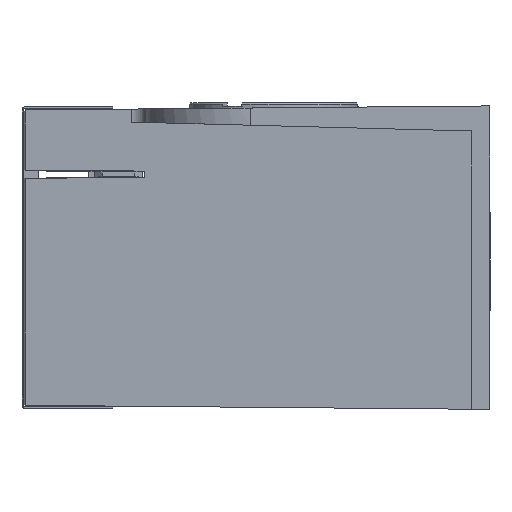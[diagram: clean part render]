
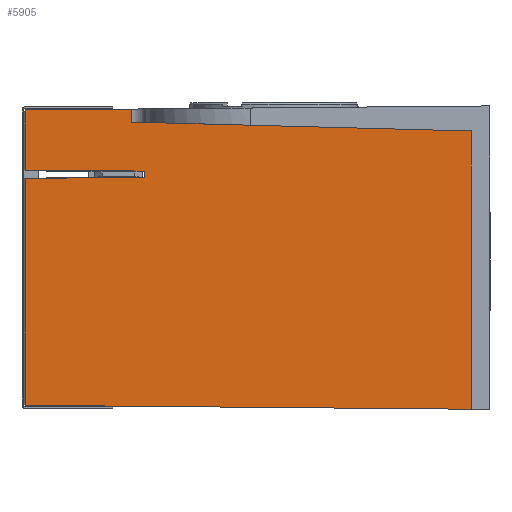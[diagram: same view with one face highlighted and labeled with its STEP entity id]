
A CAD part, left-side view. The second image highlights one B-rep face of the part: STEP entity #5905.
In plain terms, the highlighted planar face has unit normal (-1, 0.026, 0).
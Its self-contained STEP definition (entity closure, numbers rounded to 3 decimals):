
#363 = CARTESIAN_POINT ( 'NONE',  ( -31.755, 61.295, 11.548 ) ) ;
#439 = ORIENTED_EDGE ( 'NONE', *, *, #19989, .F. ) ;
#1025 = VECTOR ( 'NONE', #6432, 1000. ) ;
#1058 = VECTOR ( 'NONE', #20937, 1000. ) ;
#1114 = CARTESIAN_POINT ( 'NONE',  ( -31.755, 61.295, 0. ) ) ;
#1241 = ORIENTED_EDGE ( 'NONE', *, *, #17862, .F. ) ;
#1285 = VERTEX_POINT ( 'NONE', #21448 ) ;
#1434 = CARTESIAN_POINT ( 'NONE',  ( -32.166, 45.6, 11.411 ) ) ;
#1659 = ORIENTED_EDGE ( 'NONE', *, *, #6308, .T. ) ;
#2316 = LINE ( 'NONE', #9618, #19398 ) ;
#3471 = VERTEX_POINT ( 'NONE', #15994 ) ;
#3492 = ORIENTED_EDGE ( 'NONE', *, *, #9596, .T. ) ;
#3548 = CARTESIAN_POINT ( 'NONE',  ( -32.166, 45.6, 10.589 ) ) ;
#3962 = VECTOR ( 'NONE', #15161, 1000. ) ;
#4063 = ORIENTED_EDGE ( 'NONE', *, *, #11319, .F. ) ;
#4107 = LINE ( 'NONE', #11426, #3962 ) ;
#4192 = DIRECTION ( 'NONE',  ( -1., 0.026, 0. ) ) ;
#4734 = CARTESIAN_POINT ( 'NONE',  ( -32.166, 45.6, 0. ) ) ;
#4946 = VERTEX_POINT ( 'NONE', #3548 ) ;
#5018 = VECTOR ( 'NONE', #18780, 1000. ) ;
#5702 = ORIENTED_EDGE ( 'NONE', *, *, #20223, .T. ) ;
#5756 = VERTEX_POINT ( 'NONE', #12371 ) ;
#5905 = ADVANCED_FACE ( 'NONE', ( #14638 ), #18357, .T. ) ;
#6308 = EDGE_CURVE ( 'NONE', #9813, #21836, #2316, .T. ) ;
#6432 = DIRECTION ( 'NONE',  ( 0., 0., 1. ) ) ;
#7474 = VECTOR ( 'NONE', #16555, 1000. ) ;
#7811 = EDGE_CURVE ( 'NONE', #5756, #9813, #20807, .T. ) ;
#8351 = CARTESIAN_POINT ( 'NONE',  ( -32.126, 47.137, 17.869 ) ) ;
#8417 = EDGE_CURVE ( 'NONE', #16878, #19719, #20583, .T. ) ;
#8458 = CARTESIAN_POINT ( 'NONE',  ( -33.295, 2.5, -19.98 ) ) ;
#9591 = DIRECTION ( 'NONE',  ( 0., 0., -1. ) ) ;
#9596 = EDGE_CURVE ( 'NONE', #21696, #19719, #10236, .T. ) ;
#9618 = CARTESIAN_POINT ( 'NONE',  ( -32.122, 47.3, 0. ) ) ;
#9813 = VERTEX_POINT ( 'NONE', #15398 ) ;
#10028 = EDGE_CURVE ( 'NONE', #1285, #3471, #23164, .T. ) ;
#10236 = LINE ( 'NONE', #18589, #23350 ) ;
#10348 = DIRECTION ( 'NONE',  ( 0.026, 1., -0.009 ) ) ;
#11319 = EDGE_CURVE ( 'NONE', #21696, #21836, #11459, .T. ) ;
#11426 = CARTESIAN_POINT ( 'NONE',  ( -33.295, 2.5, 0. ) ) ;
#11459 = LINE ( 'NONE', #17132, #5018 ) ;
#11589 = CARTESIAN_POINT ( 'NONE',  ( -31.75, 61.5, 11.55 ) ) ;
#12371 = CARTESIAN_POINT ( 'NONE',  ( -33.295, 2.5, 16.7 ) ) ;
#12469 = CARTESIAN_POINT ( 'NONE',  ( -31.755, 61.295, 19.467 ) ) ;
#12619 = CARTESIAN_POINT ( 'NONE',  ( -31.748, 61.591, 10.449 ) ) ;
#12706 = LINE ( 'NONE', #16672, #7474 ) ;
#13496 = CARTESIAN_POINT ( 'NONE',  ( -32.122, 47.3, 19.589 ) ) ;
#13588 = DIRECTION ( 'NONE',  ( 0., 0., 1. ) ) ;
#13771 = ORIENTED_EDGE ( 'NONE', *, *, #8417, .F. ) ;
#13810 = VECTOR ( 'NONE', #15986, 1000. ) ;
#13941 = LINE ( 'NONE', #12619, #17524 ) ;
#14638 = FACE_OUTER_BOUND ( 'NONE', #17920, .T. ) ;
#14715 = DIRECTION ( 'NONE',  ( 0.026, 1., 0.009 ) ) ;
#15161 = DIRECTION ( 'NONE',  ( 0., 0., -1. ) ) ;
#15398 = CARTESIAN_POINT ( 'NONE',  ( -32.122, 47.3, 17.873 ) ) ;
#15986 = DIRECTION ( 'NONE',  ( 0., 0., -1. ) ) ;
#15994 = CARTESIAN_POINT ( 'NONE',  ( -31.755, 61.295, -19.467 ) ) ;
#16555 = DIRECTION ( 'NONE',  ( -0.026, -1., -0.009 ) ) ;
#16672 = CARTESIAN_POINT ( 'NONE',  ( -31.746, 61.67, -19.464 ) ) ;
#16878 = VERTEX_POINT ( 'NONE', #1434 ) ;
#17132 = CARTESIAN_POINT ( 'NONE',  ( -31.746, 61.67, 19.464 ) ) ;
#17524 = VECTOR ( 'NONE', #10348, 1000. ) ;
#17714 = ORIENTED_EDGE ( 'NONE', *, *, #21015, .T. ) ;
#17862 = EDGE_CURVE ( 'NONE', #5756, #21369, #4107, .T. ) ;
#17920 = EDGE_LOOP ( 'NONE', ( #22535, #17714, #1241, #21534, #1659, #4063, #3492, #13771, #439, #5702 ) ) ;
#18357 = PLANE ( 'NONE',  #22449 ) ;
#18589 = CARTESIAN_POINT ( 'NONE',  ( -31.755, 61.295, 0. ) ) ;
#18780 = DIRECTION ( 'NONE',  ( -0.026, -1., 0.009 ) ) ;
#19398 = VECTOR ( 'NONE', #13588, 1000. ) ;
#19719 = VERTEX_POINT ( 'NONE', #363 ) ;
#19989 = EDGE_CURVE ( 'NONE', #4946, #16878, #21141, .T. ) ;
#20223 = EDGE_CURVE ( 'NONE', #4946, #1285, #13941, .T. ) ;
#20583 = LINE ( 'NONE', #11589, #22118 ) ;
#20620 = DIRECTION ( 'NONE',  ( -0.026, -1., 0. ) ) ;
#20807 = LINE ( 'NONE', #8351, #1058 ) ;
#20937 = DIRECTION ( 'NONE',  ( 0.026, 0.999, 0.026 ) ) ;
#21015 = EDGE_CURVE ( 'NONE', #3471, #21369, #12706, .T. ) ;
#21141 = LINE ( 'NONE', #4734, #1025 ) ;
#21369 = VERTEX_POINT ( 'NONE', #8458 ) ;
#21448 = CARTESIAN_POINT ( 'NONE',  ( -31.755, 61.295, 10.452 ) ) ;
#21534 = ORIENTED_EDGE ( 'NONE', *, *, #7811, .T. ) ;
#21696 = VERTEX_POINT ( 'NONE', #12469 ) ;
#21836 = VERTEX_POINT ( 'NONE', #13496 ) ;
#22118 = VECTOR ( 'NONE', #14715, 1000. ) ;
#22449 = AXIS2_PLACEMENT_3D ( 'NONE', #22541, #4192, #20620 ) ;
#22535 = ORIENTED_EDGE ( 'NONE', *, *, #10028, .T. ) ;
#22541 = CARTESIAN_POINT ( 'NONE',  ( -31.75, 61.5, 0. ) ) ;
#23164 = LINE ( 'NONE', #1114, #13810 ) ;
#23350 = VECTOR ( 'NONE', #9591, 1000. ) ;
